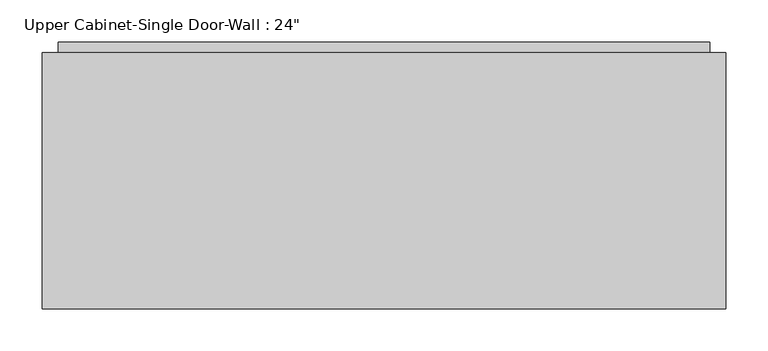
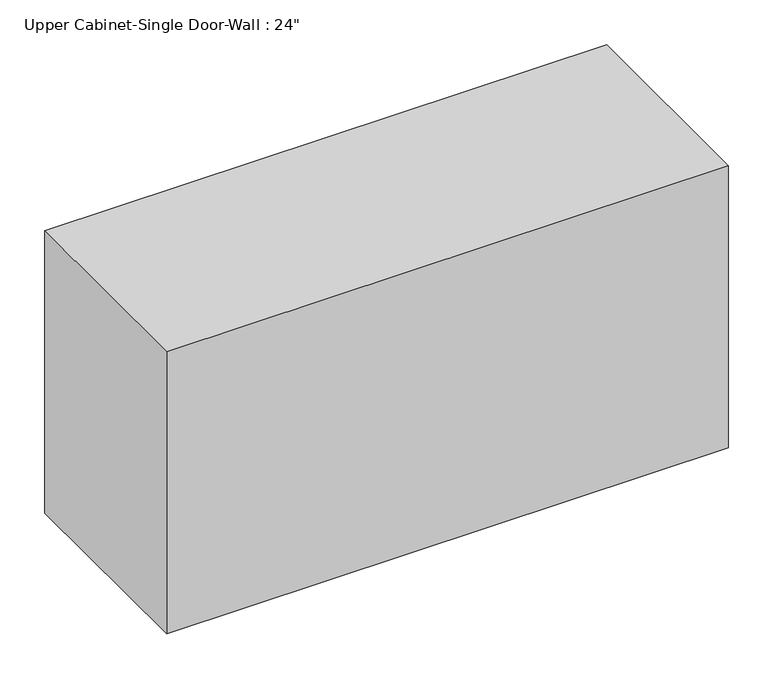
"""IFC4 building model written with IfcOpenShell, lengths in millimetres: furniture geometry."""

from ifc_helpers import new_model, si_unit, frame, origin, place, context, project, spatial, polyline, outline, extrude, faceted_brep, source, transform, mapped, element, save


def furniture_249e4f53(model_context):
    return source(origin(), model_context, "Body", "SolidModel", [
        faceted_brep([(-554.4288372, 57.15, 2133.6), (-554.4288372, 57.15, 1701.8), (258.3711628, 57.15, 1701.8), (258.3711628, 57.15, 2133.6), (-554.4288372, 361.95, 2133.6), (258.3711628, 361.95, 2133.6), (258.3711628, 361.95, 1701.8), (-554.4288372, 361.95, 1701.8), (-535.3788372, 361.95, 2114.55), (-535.3788372, 361.95, 1720.85), (239.3211628, 361.95, 1720.85), (239.3211628, 361.95, 2114.55), (239.3211628, 76.2, 2114.55), (-535.3788372, 76.2, 2114.55), (239.3211628, 76.2, 1720.85), (-535.3788372, 76.2, 1720.85)], [[[0, 1, 2, 3]], [[4, 5, 6, 7], [8, 9, 10, 11]], [[1, 0, 4, 7]], [[2, 1, 7, 6]], [[3, 2, 6, 5]], [[0, 3, 5, 4]], [[8, 11, 12, 13]], [[11, 10, 14, 12]], [[10, 9, 15, 14]], [[9, 8, 13, 15]], [[13, 12, 14, 15]]]),
        extrude(outline(polyline([(-535.3788372, 374.65), (239.3211628, 374.65), (239.3211628, 342.9), (-535.3788372, 342.9), (-535.3788372, 374.65)])), frame((0.0, 0.0, 1720.85), z_axis=(0.0, 0.0, 1.0), x_axis=(1.0, 0.0, 0.0)), (0.0, 0.0, 1.0), 393.7),
    ])


if __name__ == "__main__":
    model = new_model("IFC4")
    model_context = context("Model", 3, world=origin())
    ifc_project = project(units=[si_unit("LENGTHUNIT", "METRE", prefix="MILLI")], contexts=[model_context])
    site = spatial("IfcSite", under=ifc_project)
    building = spatial("IfcBuilding", under=site)
    placement = place(None, origin())
    furniture_shape = furniture_249e4f53(model_context)
    element("IfcFurniture", 1, ObjectType="Upper Cabinet-Single Door-Wall : 24\"", at=placement, inside=building, context=model_context, shape_type="MappedRepresentation", body=[
        mapped(furniture_shape, transform((0.0, 0.0, 0.0), x_axis=(1.0, 0.0, 0.0), y_axis=(0.0, 1.0, 0.0), z_axis=(0.0, 0.0, 1.0))),
    ])
    save(model, "model.ifc")
